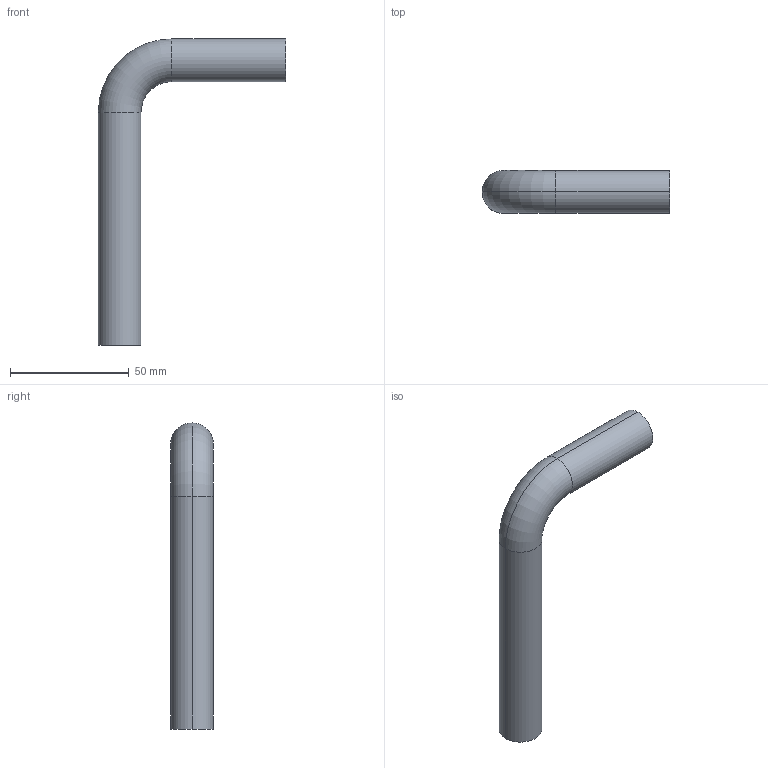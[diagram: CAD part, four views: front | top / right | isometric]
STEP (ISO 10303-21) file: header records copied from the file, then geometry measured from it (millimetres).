
FILE_DESCRIPTION(('OneSpaceDesigner STEP Export'),'2;1');
FILE_NAME('C1425 18x18.stp','2010-06-15T15:33:02',(''),(''),'OneSpace Designer STEP processor for AP214 (Solid Model)','OneSpace Modeling 15.00A 14-Mar-2007 (C) CoCreate Software GmbH','');
FILE_SCHEMA(('AUTOMOTIVE_DESIGN { 1 0 10303 214 1 1 1 1 }'));
Length unit declared in the file: millimetre
Products named in the file (2): C1425_18x18
Assembly tree (1 placements, depth 2):
  C1425_18x18
    C1425_18x18
Bounding box: 79 x 18 x 129 mm (x, y, z)
Volume: 14039.1 mm3; surface area: 18874.4 mm2
Topology: 1 solids, 1 shells, 14 faces, 30 edges, 18 vertices
Faces by surface type: cylinder 8, torus 4, plane 2
Entity records: 367 total; most frequent: ORIENTED_EDGE 60, DIRECTION 56, CARTESIAN_POINT 50, EDGE_CURVE 30, AXIS2_PLACEMENT_3D 24, VERTEX_POINT 18, EDGE_LOOP 16, CIRCLE 14
